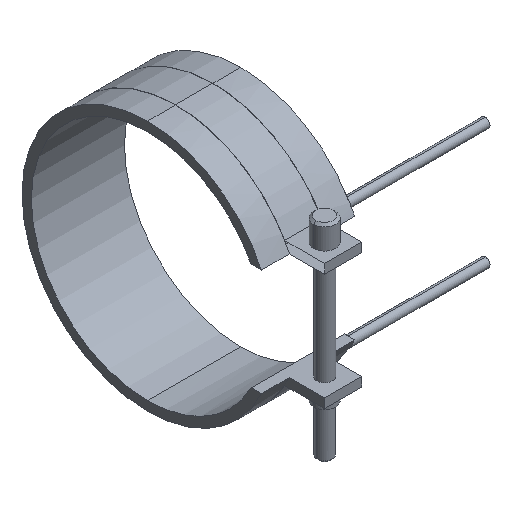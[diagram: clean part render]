
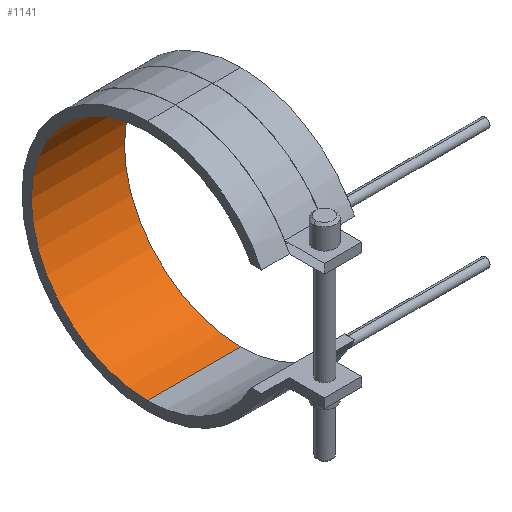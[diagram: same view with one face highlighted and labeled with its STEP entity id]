
A CAD part, isometric view. The second image highlights one B-rep face of the part: STEP entity #1141.
In plain terms, the highlighted cylindrical face has radius 50 mm (diameter 100 mm), a partial arc.
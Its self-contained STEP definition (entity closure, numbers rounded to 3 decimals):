
#822=CARTESIAN_POINT('Vertex',(-20.,0.,-50.)) ;
#829=CARTESIAN_POINT('Vertex',(20.,0.,-50.)) ;
#832=CARTESIAN_POINT('Line Origine',(20.,0.,-50.)) ;
#850=CARTESIAN_POINT('Axis2P3D Location',(-20.,0.,0.)) ;
#854=CARTESIAN_POINT('Vertex',(-20.,0.,50.)) ;
#911=CARTESIAN_POINT('Vertex',(20.,0.,50.)) ;
#921=CARTESIAN_POINT('Line Origine',(20.,0.,50.)) ;
#1012=CARTESIAN_POINT('Axis2P3D Location',(20.,0.,0.)) ;
#1130=CARTESIAN_POINT('Axis2P3D Location',(20.,0.,0.)) ;
#833=DIRECTION('Vector Direction',(1.,0.,0.)) ;
#851=DIRECTION('Axis2P3D Direction',(1.,0.,0.)) ;
#922=DIRECTION('Vector Direction',(1.,0.,0.)) ;
#1013=DIRECTION('Axis2P3D Direction',(1.,0.,0.)) ;
#1131=DIRECTION('Axis2P3D Direction',(1.,0.,-0.)) ;
#1132=DIRECTION('Axis2P3D XDirection',(0.,0.,-1.)) ;
#852=AXIS2_PLACEMENT_3D('Circle Axis2P3D',#850,#851,$) ;
#1014=AXIS2_PLACEMENT_3D('Circle Axis2P3D',#1012,#1013,$) ;
#1133=AXIS2_PLACEMENT_3D('Cylinder Axis2P3D',#1130,#1131,#1132) ;
#1136=ORIENTED_EDGE('',*,*,#1016,.T.) ;
#1137=ORIENTED_EDGE('',*,*,#925,.T.) ;
#1138=ORIENTED_EDGE('',*,*,#856,.F.) ;
#1139=ORIENTED_EDGE('',*,*,#836,.T.) ;
#834=VECTOR('Line Direction',#833,1.) ;
#923=VECTOR('Line Direction',#922,1.) ;
#1141=ADVANCED_FACE('14100040',(#1140),#1134,.F.) ;
#853=CIRCLE('generated circle',#852,50.) ;
#1015=CIRCLE('generated circle',#1014,50.) ;
#1134=CYLINDRICAL_SURFACE('generated cylinder',#1133,50.) ;
#836=EDGE_CURVE('',#823,#830,#835,.T.) ;
#856=EDGE_CURVE('',#823,#855,#853,.T.) ;
#925=EDGE_CURVE('',#912,#855,#924,.F.) ;
#1016=EDGE_CURVE('',#830,#912,#1015,.T.) ;
#1135=EDGE_LOOP('',(#1136,#1137,#1138,#1139)) ;
#1140=FACE_OUTER_BOUND('',#1135,.T.) ;
#835=LINE('Line',#832,#834) ;
#924=LINE('Line',#921,#923) ;
#823=VERTEX_POINT('',#822) ;
#830=VERTEX_POINT('',#829) ;
#855=VERTEX_POINT('',#854) ;
#912=VERTEX_POINT('',#911) ;
